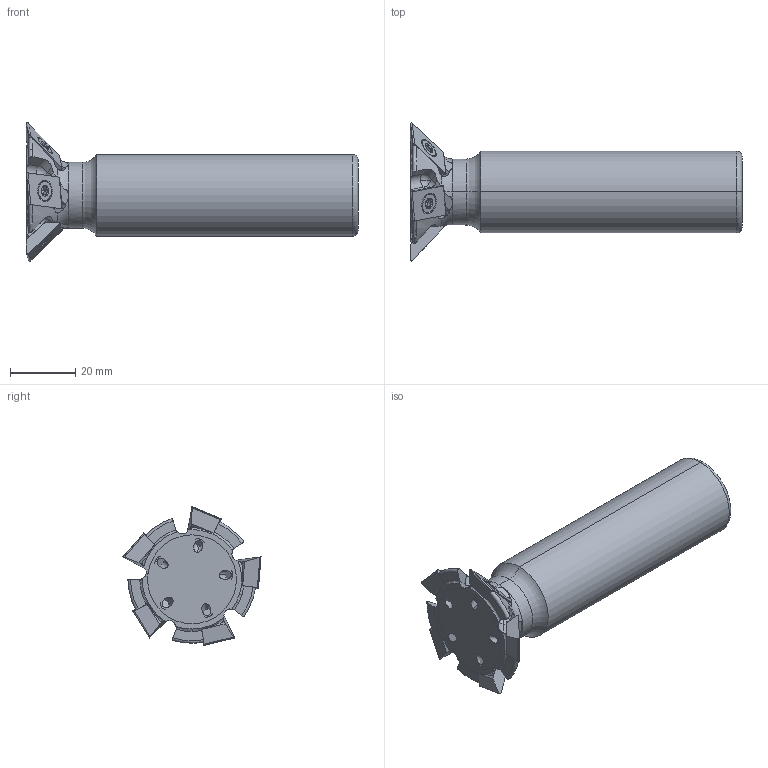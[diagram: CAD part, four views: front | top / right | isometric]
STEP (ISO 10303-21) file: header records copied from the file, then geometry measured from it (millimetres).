
FILE_DESCRIPTION (( 'STEP AP214' ), '1' );
FILE_NAME ('DC1750-M_WEBSITE.STEP', '2025-08-11T10:33:17', ( '' ), ( '' ), 'SwSTEP 2.0', 'SolidWorks 2024', '' );
FILE_SCHEMA (( 'AUTOMOTIVE_DESIGN' ));
Length unit declared in the file: inch
Products named in the file (4): DC1750-M45_FINISHED PART.STEP; DC1750-S_WITH THREADS .STEP_WEBSITE; DC1750-B.STEP_WEBSITE; DC1750-M_WEBSITE
Assembly tree (11 placements, depth 2):
  DC1750-M_WEBSITE
    DC1750-M45_FINISHED PART.STEP
    DC1750-B.STEP_WEBSITE  x5
    DC1750-S_WITH THREADS .STEP_WEBSITE  x5
Bounding box: 101.67 x 42.27 x 42.42 mm (x, y, z)
Volume: 50053 mm3; surface area: 12825.1 mm2
Topology: 11 solids, 11 shells, 477 faces, 1198 edges, 697 vertices
Faces by surface type: cylinder 175, cone 144, plane 108, torus 41, sphere 9
Full cylindrical faces by diameter (mm): 3.505 x5
Entity records: 10912 total; most frequent: CARTESIAN_POINT 3385, ORIENTED_EDGE 1170, DIRECTION 1036, EDGE_CURVE 585, AXIS2_PLACEMENT_3D 408, VERTEX_POINT 370, EDGE_LOOP 241, FACE_OUTER_BOUND 226
